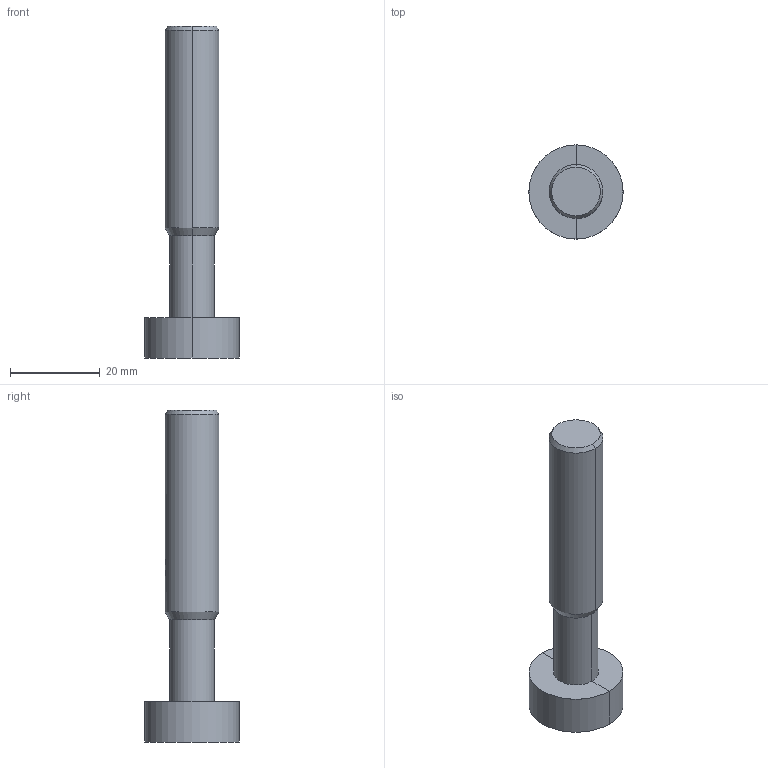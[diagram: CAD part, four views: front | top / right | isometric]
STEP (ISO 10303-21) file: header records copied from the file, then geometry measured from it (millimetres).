
FILE_DESCRIPTION(('no description'),'unknown implementation level');
FILE_NAME('solid43yPfuXX_QhisA_X7q_vh8BfC_s_1.STP',' ',('CIMSOURCE GmbH'),('CADClick - KiM GmbH - www.kimweb.de'),'unknown preprocess','ACIS','unknown authorization');
FILE_SCHEMA(('automotive_design'));
Length unit declared in the file: millimetre
Products named in the file (2): NOCUT; CUT
Bounding box: 21 x 21 x 74 mm (x, y, z)
Volume: 9795.2 mm3; surface area: 5279.9 mm2
Topology: 2 solids, 2 shells, 39 faces, 89 edges, 54 vertices
Faces by surface type: cylinder 18, cone 12, plane 9
Entity records: 2436 total; most frequent: CARTESIAN_POINT 468, DIRECTION 199, STYLED_ITEM 184, PRESENTATION_STYLE_ASSIGNMENT 184, COLOUR_RGB 184, ORIENTED_EDGE 178, EDGE_CURVE 89, CURVE_STYLE 89
